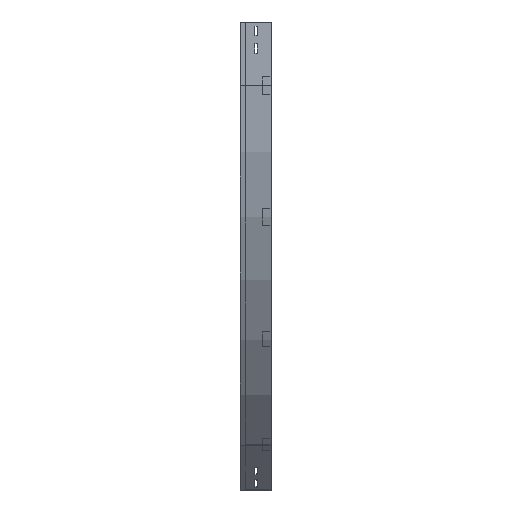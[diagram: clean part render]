
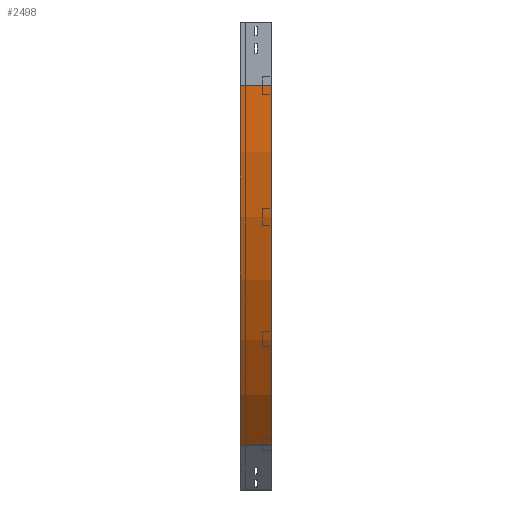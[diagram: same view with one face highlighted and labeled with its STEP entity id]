
A CAD part, left-side view. The second image highlights one B-rep face of the part: STEP entity #2498.
In plain terms, the highlighted cylindrical face has radius 1200 mm (diameter 2400 mm), a partial arc.
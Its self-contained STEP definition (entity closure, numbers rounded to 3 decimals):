
#2 = CARTESIAN_POINT ( 'NONE',  ( 351.472, 0., -998.528 ) ) ;
#66 = ORIENTED_EDGE ( 'NONE', *, *, #1789, .F. ) ;
#84 = ORIENTED_EDGE ( 'NONE', *, *, #1338, .T. ) ;
#105 = DIRECTION ( 'NONE',  ( 0., -1., 0. ) ) ;
#342 = CARTESIAN_POINT ( 'NONE',  ( 351.472, 0., -998.528 ) ) ;
#413 = FACE_OUTER_BOUND ( 'NONE', #939, .T. ) ;
#758 = VECTOR ( 'NONE', #2552, 1000. ) ;
#762 = EDGE_CURVE ( 'NONE', #3736, #1909, #3026, .T. ) ;
#764 = VERTEX_POINT ( 'NONE', #3073 ) ;
#825 = AXIS2_PLACEMENT_3D ( 'NONE', #1654, #2504, #3714 ) ;
#939 = EDGE_LOOP ( 'NONE', ( #1217, #66, #84, #1717 ) ) ;
#1200 = DIRECTION ( 'NONE',  ( 0., -1., 0. ) ) ;
#1217 = ORIENTED_EDGE ( 'NONE', *, *, #3118, .F. ) ;
#1291 = DIRECTION ( 'NONE',  ( 0., 0., -1. ) ) ;
#1338 = EDGE_CURVE ( 'NONE', #764, #3736, #1689, .T. ) ;
#1413 = VERTEX_POINT ( 'NONE', #3812 ) ;
#1654 = CARTESIAN_POINT ( 'NONE',  ( 1200., 75., -150. ) ) ;
#1689 = CIRCLE ( 'NONE', #825, 1200. ) ;
#1717 = ORIENTED_EDGE ( 'NONE', *, *, #762, .T. ) ;
#1761 = CIRCLE ( 'NONE', #3271, 1200. ) ;
#1789 = EDGE_CURVE ( 'NONE', #764, #1413, #1917, .T. ) ;
#1809 = VECTOR ( 'NONE', #1200, 1000. ) ;
#1909 = VERTEX_POINT ( 'NONE', #2 ) ;
#1917 = LINE ( 'NONE', #2226, #758 ) ;
#2226 = CARTESIAN_POINT ( 'NONE',  ( 0., 0., -150. ) ) ;
#2463 = CYLINDRICAL_SURFACE ( 'NONE', #2658, 1200. ) ;
#2498 = ADVANCED_FACE ( 'NONE', ( #413 ), #2463, .T. ) ;
#2504 = DIRECTION ( 'NONE',  ( 0., -1., 0. ) ) ;
#2552 = DIRECTION ( 'NONE',  ( 0., -1., 0. ) ) ;
#2658 = AXIS2_PLACEMENT_3D ( 'NONE', #2773, #105, #1291 ) ;
#2773 = CARTESIAN_POINT ( 'NONE',  ( 1200., 0., -150. ) ) ;
#2784 = CARTESIAN_POINT ( 'NONE',  ( 1200., 0., -150. ) ) ;
#3026 = LINE ( 'NONE', #342, #1809 ) ;
#3073 = CARTESIAN_POINT ( 'NONE',  ( 0., 75., -150. ) ) ;
#3078 = DIRECTION ( 'NONE',  ( 0., -1., 0. ) ) ;
#3118 = EDGE_CURVE ( 'NONE', #1413, #1909, #1761, .T. ) ;
#3271 = AXIS2_PLACEMENT_3D ( 'NONE', #2784, #3078, #3403 ) ;
#3403 = DIRECTION ( 'NONE',  ( -1., 0., 0. ) ) ;
#3593 = CARTESIAN_POINT ( 'NONE',  ( 351.472, 75., -998.528 ) ) ;
#3714 = DIRECTION ( 'NONE',  ( -1., 0., 0. ) ) ;
#3736 = VERTEX_POINT ( 'NONE', #3593 ) ;
#3812 = CARTESIAN_POINT ( 'NONE',  ( 0., 0., -150. ) ) ;
